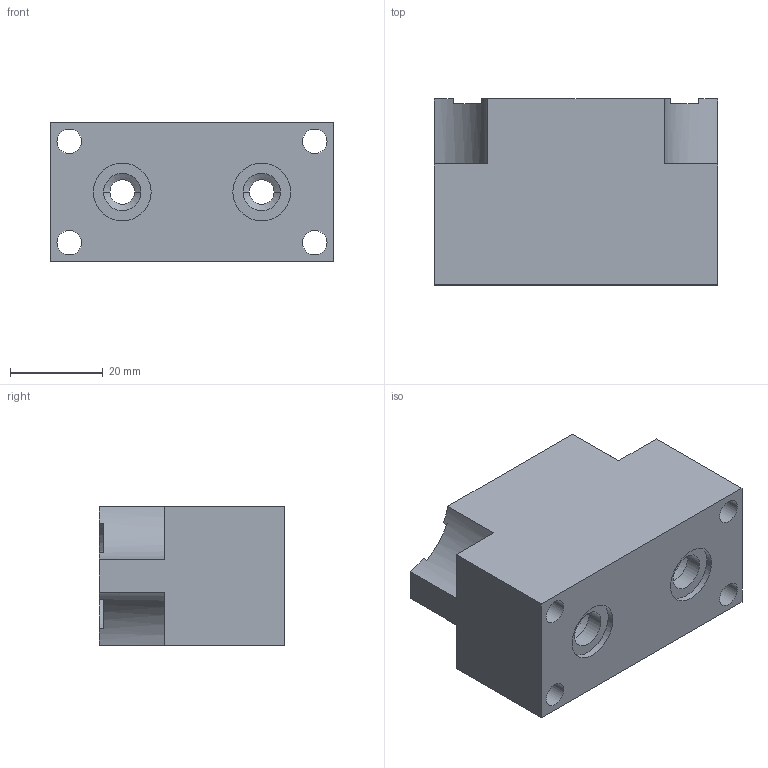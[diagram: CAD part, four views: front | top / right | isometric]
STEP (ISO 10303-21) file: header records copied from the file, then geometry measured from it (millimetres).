
FILE_DESCRIPTION((''),'2;1');
FILE_NAME('28988202','2020-09-09T',('l.soukupova'),(''),'PRO/ENGINEER BY PARAMETRIC TECHNOLOGY CORPORATION, 2015440','PRO/ENGINEER BY PARAMETRIC TECHNOLOGY CORPORATION, 2015440','');
FILE_SCHEMA(('AUTOMOTIVE_DESIGN { 1 0 10303 214 1 1 1 1 }'));
Length unit declared in the file: millimetre
Products named in the file (1): 28988202
Bounding box: 61 x 40 x 30 mm (x, y, z)
Volume: 58643.2 mm3; surface area: 15188.2 mm2
Topology: 1 solids, 3 shells, 70 faces, 201 edges, 156 vertices
Faces by surface type: cylinder 36, plane 18, cone 16
Entity records: 3265 total; most frequent: DIRECTION 443, CARTESIAN_POINT 388, ORIENTED_EDGE 336, PRESENTATION_STYLE_ASSIGNMENT 231, STYLED_ITEM 211, CURVE_STYLE 208, EDGE_CURVE 172, AXIS2_PLACEMENT_3D 167
